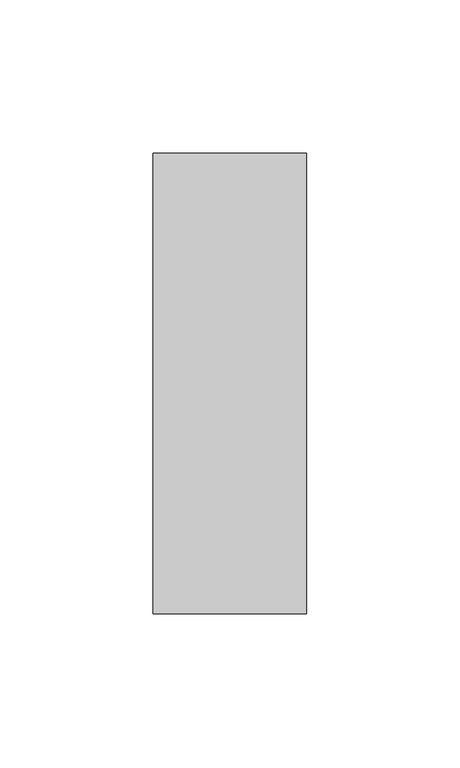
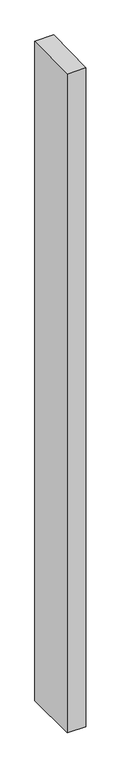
"""IFC4 building model written with IfcOpenShell, lengths in millimetres: member geometry, Прямоугольный импост : 50 x 150 мм."""

from ifc_helpers import new_model, si_unit, origin, place, context, project, spatial, faceted_brep, source, transform, mapped, element, save


def member_6d14cd8f(model_context):
    return source(origin(), model_context, "Body", "Brep", [
        faceted_brep([(-25.0, 75.0, 0.8722791), (25.0, 75.0, 1.9282259), (25.0, 75.0, -1872.4756404), (-25.0, 75.0, -1871.5282317), (-25.0, -75.0, -1.9282259), (-25.0, -75.0, -1870.8299925), (25.0, -75.0, -0.8722791), (25.0, -75.0, -1871.7774013)], [[[0, 1, 2, 3]], [[4, 0, 3, 5]], [[6, 4, 5, 7]], [[1, 6, 7, 2]], [[1, 0, 4, 6]], [[2, 7, 5, 3]]]),
    ])


if __name__ == "__main__":
    model = new_model("IFC4")
    model_context = context("Model", 3, world=origin())
    ifc_project = project(units=[si_unit("LENGTHUNIT", "METRE", prefix="MILLI")], contexts=[model_context])
    site = spatial("IfcSite", under=ifc_project)
    building = spatial("IfcBuilding", under=site)
    placement = place(None, origin())
    member_shape = member_6d14cd8f(model_context)
    element("IfcMember", 1, ObjectType="Прямоугольный импост : 50 x 150 мм", at=placement, inside=building, context=model_context, shape_type="MappedRepresentation", body=[
        mapped(member_shape, transform((0.0, 0.0, 0.0), x_axis=(1.0, 0.0, 0.0), y_axis=(0.0, 1.0, 0.0), z_axis=(0.0, 0.0, 1.0))),
    ])
    save(model, "model.ifc")
